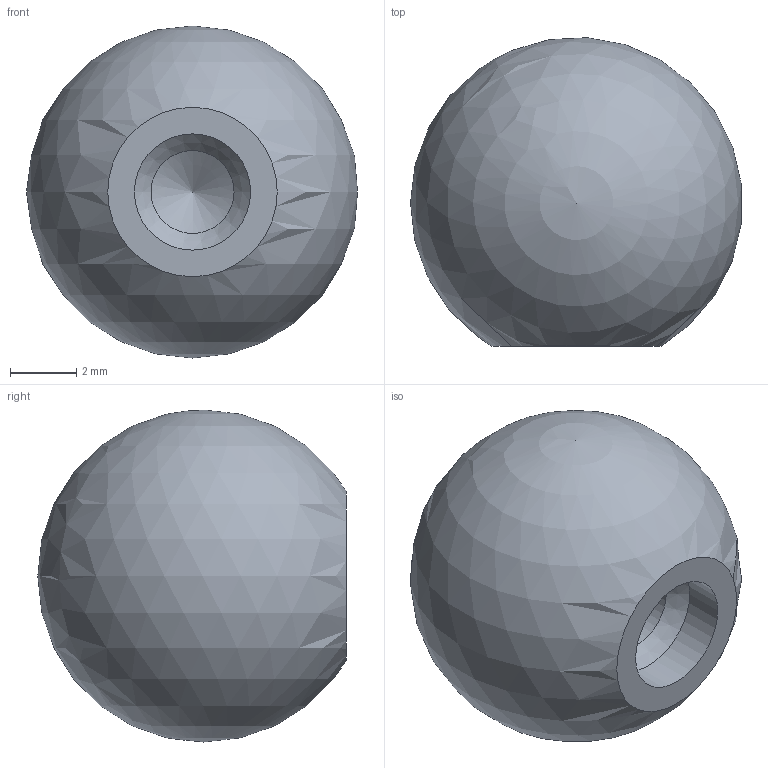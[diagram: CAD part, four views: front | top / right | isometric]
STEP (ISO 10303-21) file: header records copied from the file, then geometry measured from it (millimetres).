
FILE_DESCRIPTION (( 'STEP AP214' ), '1' );
FILE_NAME ('319-KU-10-M3-C.step', '2022-03-08T14:16:08', ( 'user' ), ( '' ), 'SwSTEP 2.0', 'SolidWorks 2019', '' );
FILE_SCHEMA (( 'AUTOMOTIVE_DESIGN' ));
Length unit declared in the file: millimetre
Products named in the file (1): 319-KU-10-M3-C
Bounding box: 9.97 x 9.29 x 10 mm (x, y, z)
Volume: 473.9 mm3; surface area: 370.2 mm2
Topology: 1 solids, 1 shells, 6 faces, 15 edges, 10 vertices
Faces by surface type: cone 2, cylinder 2, plane 1, sphere 1
Full cylindrical faces by diameter (mm): 2.5 x1, 3.5 x1
Entity records: 159 total; most frequent: DIRECTION 24, CARTESIAN_POINT 17, AXIS2_PLACEMENT_3D 12, ORIENTED_EDGE 10, EDGE_LOOP 10, FACE_OUTER_BOUND 8, ADVANCED_FACE 6, CIRCLE 5
